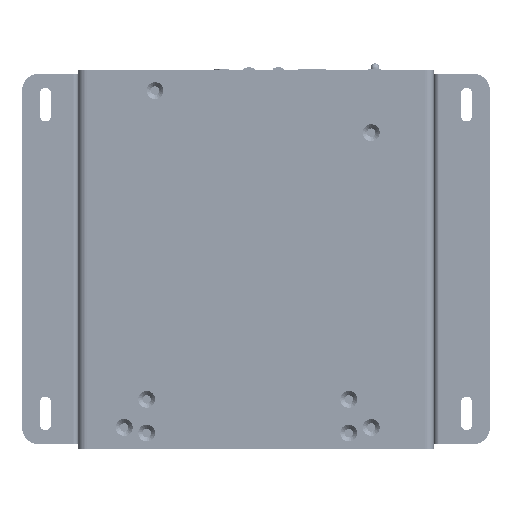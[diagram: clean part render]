
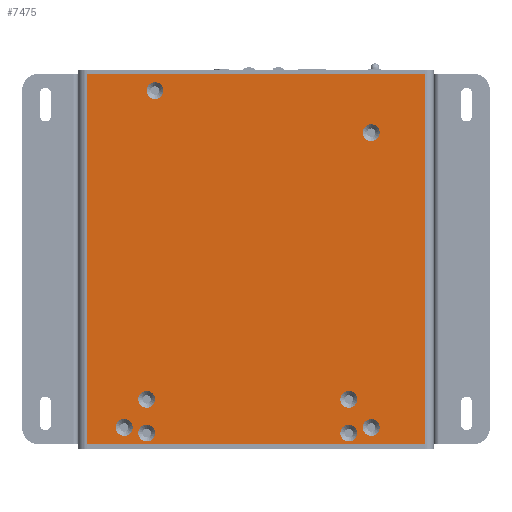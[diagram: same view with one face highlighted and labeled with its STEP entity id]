
A CAD part, front view. The second image highlights one B-rep face of the part: STEP entity #7475.
In plain terms, the highlighted planar face has unit normal (0, -1, 0).
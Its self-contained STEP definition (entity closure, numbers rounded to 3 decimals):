
#4503=DIRECTION('',(0.,0.,-1.));
#4504=VECTOR('',#4503,132.);
#4505=CARTESIAN_POINT('',(60.35,-38.954,132.));
#4506=LINE('',#4505,#4504);
#4511=DIRECTION('',(1.,0.,0.));
#4512=VECTOR('',#4511,120.7);
#4513=CARTESIAN_POINT('',(-60.35,-38.954,0.));
#4514=LINE('',#4513,#4512);
#4515=DIRECTION('',(-1.,0.,0.));
#4516=VECTOR('',#4515,120.7);
#4517=CARTESIAN_POINT('',(60.35,-38.954,132.));
#4518=LINE('',#4517,#4516);
#4519=CARTESIAN_POINT('',(41.05,-38.954,111.));
#4520=DIRECTION('',(0.,1.,0.));
#4521=DIRECTION('',(0.,0.,-1.));
#4522=AXIS2_PLACEMENT_3D('',#4519,#4520,#4521);
#4524=CARTESIAN_POINT('',(41.05,-38.954,111.));
#4525=DIRECTION('',(0.,1.,0.));
#4526=DIRECTION('',(0.,0.,1.));
#4527=AXIS2_PLACEMENT_3D('',#4524,#4525,#4526);
#4529=CARTESIAN_POINT('',(41.05,-38.954,111.));
#4530=DIRECTION('',(0.,1.,0.));
#4531=DIRECTION('',(-1.,0.,0.));
#4532=AXIS2_PLACEMENT_3D('',#4529,#4530,#4531);
#4534=CARTESIAN_POINT('',(-35.95,-38.954,126.));
#4535=DIRECTION('',(0.,1.,0.));
#4536=DIRECTION('',(0.,0.,-1.));
#4537=AXIS2_PLACEMENT_3D('',#4534,#4535,#4536);
#4539=CARTESIAN_POINT('',(-35.95,-38.954,126.));
#4540=DIRECTION('',(0.,1.,0.));
#4541=DIRECTION('',(0.,0.,1.));
#4542=AXIS2_PLACEMENT_3D('',#4539,#4540,#4541);
#4544=CARTESIAN_POINT('',(-35.95,-38.954,126.));
#4545=DIRECTION('',(0.,1.,0.));
#4546=DIRECTION('',(-1.,0.,0.));
#4547=AXIS2_PLACEMENT_3D('',#4544,#4545,#4546);
#4549=CARTESIAN_POINT('',(-46.95,-38.954,6.));
#4550=DIRECTION('',(0.,1.,0.));
#4551=DIRECTION('',(0.,0.,-1.));
#4552=AXIS2_PLACEMENT_3D('',#4549,#4550,#4551);
#4554=CARTESIAN_POINT('',(-46.95,-38.954,6.));
#4555=DIRECTION('',(0.,1.,0.));
#4556=DIRECTION('',(0.,0.,1.));
#4557=AXIS2_PLACEMENT_3D('',#4554,#4555,#4556);
#4559=CARTESIAN_POINT('',(-46.95,-38.954,6.));
#4560=DIRECTION('',(0.,1.,0.));
#4561=DIRECTION('',(-1.,0.,0.));
#4562=AXIS2_PLACEMENT_3D('',#4559,#4560,#4561);
#4564=CARTESIAN_POINT('',(41.05,-38.954,6.));
#4565=DIRECTION('',(0.,1.,0.));
#4566=DIRECTION('',(0.,0.,-1.));
#4567=AXIS2_PLACEMENT_3D('',#4564,#4565,#4566);
#4569=CARTESIAN_POINT('',(41.05,-38.954,6.));
#4570=DIRECTION('',(0.,1.,0.));
#4571=DIRECTION('',(0.,0.,1.));
#4572=AXIS2_PLACEMENT_3D('',#4569,#4570,#4571);
#4574=CARTESIAN_POINT('',(41.05,-38.954,6.));
#4575=DIRECTION('',(0.,1.,0.));
#4576=DIRECTION('',(-1.,0.,0.));
#4577=AXIS2_PLACEMENT_3D('',#4574,#4575,#4576);
#4579=CARTESIAN_POINT('',(33.05,-38.954,16.));
#4580=DIRECTION('',(0.,1.,0.));
#4581=DIRECTION('',(0.,0.,-1.));
#4582=AXIS2_PLACEMENT_3D('',#4579,#4580,#4581);
#4584=CARTESIAN_POINT('',(33.05,-38.954,16.));
#4585=DIRECTION('',(0.,1.,0.));
#4586=DIRECTION('',(0.,0.,1.));
#4587=AXIS2_PLACEMENT_3D('',#4584,#4585,#4586);
#4589=CARTESIAN_POINT('',(33.05,-38.954,4.));
#4590=DIRECTION('',(0.,1.,0.));
#4591=DIRECTION('',(0.,0.,-1.));
#4592=AXIS2_PLACEMENT_3D('',#4589,#4590,#4591);
#4594=CARTESIAN_POINT('',(33.05,-38.954,4.));
#4595=DIRECTION('',(0.,1.,0.));
#4596=DIRECTION('',(0.,0.,1.));
#4597=AXIS2_PLACEMENT_3D('',#4594,#4595,#4596);
#4599=CARTESIAN_POINT('',(-38.95,-38.954,16.));
#4600=DIRECTION('',(0.,1.,0.));
#4601=DIRECTION('',(0.,0.,-1.));
#4602=AXIS2_PLACEMENT_3D('',#4599,#4600,#4601);
#4604=CARTESIAN_POINT('',(-38.95,-38.954,16.));
#4605=DIRECTION('',(0.,1.,0.));
#4606=DIRECTION('',(0.,0.,1.));
#4607=AXIS2_PLACEMENT_3D('',#4604,#4605,#4606);
#4609=CARTESIAN_POINT('',(-38.95,-38.954,4.));
#4610=DIRECTION('',(0.,1.,0.));
#4611=DIRECTION('',(0.,0.,-1.));
#4612=AXIS2_PLACEMENT_3D('',#4609,#4610,#4611);
#4614=CARTESIAN_POINT('',(-38.95,-38.954,4.));
#4615=DIRECTION('',(0.,1.,0.));
#4616=DIRECTION('',(0.,0.,1.));
#4617=AXIS2_PLACEMENT_3D('',#4614,#4615,#4616);
#4623=DIRECTION('',(0.,0.,1.));
#4624=VECTOR('',#4623,132.);
#4625=CARTESIAN_POINT('',(-60.35,-38.954,0.));
#4626=LINE('',#4625,#4624);
#5151=CARTESIAN_POINT('',(-38.95,-38.954,7.));
#5153=VERTEX_POINT('',#5151);
#5227=CARTESIAN_POINT('',(-46.95,-38.954,9.));
#5228=VERTEX_POINT('',#5227);
#5269=CARTESIAN_POINT('',(-60.35,-38.954,0.));
#5270=CARTESIAN_POINT('',(-60.35,-38.954,132.));
#5271=VERTEX_POINT('',#5269);
#5272=VERTEX_POINT('',#5270);
#5285=CARTESIAN_POINT('',(-38.95,-38.954,1.));
#5286=VERTEX_POINT('',#5285);
#5325=CARTESIAN_POINT('',(-35.95,-38.954,129.));
#5327=VERTEX_POINT('',#5325);
#5341=CARTESIAN_POINT('',(33.05,-38.954,7.));
#5343=VERTEX_POINT('',#5341);
#5353=CARTESIAN_POINT('',(41.05,-38.954,9.));
#5354=CARTESIAN_POINT('',(41.05,-38.954,3.));
#5355=VERTEX_POINT('',#5353);
#5356=VERTEX_POINT('',#5354);
#5463=CARTESIAN_POINT('',(-35.95,-38.954,123.));
#5464=VERTEX_POINT('',#5463);
#5487=CARTESIAN_POINT('',(33.05,-38.954,19.));
#5488=CARTESIAN_POINT('',(33.05,-38.954,13.));
#5489=VERTEX_POINT('',#5487);
#5490=VERTEX_POINT('',#5488);
#5517=CARTESIAN_POINT('',(33.05,-38.954,1.));
#5518=VERTEX_POINT('',#5517);
#5573=CARTESIAN_POINT('',(-38.95,-38.954,19.));
#5574=CARTESIAN_POINT('',(-38.95,-38.954,13.));
#5575=VERTEX_POINT('',#5573);
#5576=VERTEX_POINT('',#5574);
#5585=CARTESIAN_POINT('',(41.05,-38.954,114.));
#5586=CARTESIAN_POINT('',(41.05,-38.954,108.));
#5587=VERTEX_POINT('',#5585);
#5588=VERTEX_POINT('',#5586);
#5607=CARTESIAN_POINT('',(60.35,-38.954,0.));
#5608=VERTEX_POINT('',#5607);
#5621=CARTESIAN_POINT('',(60.35,-38.954,132.));
#5622=VERTEX_POINT('',#5621);
#5655=CARTESIAN_POINT('',(-38.95,-38.954,126.));
#5656=VERTEX_POINT('',#5655);
#5679=CARTESIAN_POINT('',(-46.95,-38.954,3.));
#5680=CARTESIAN_POINT('',(-49.95,-38.954,6.));
#5681=VERTEX_POINT('',#5679);
#5682=VERTEX_POINT('',#5680);
#5701=CARTESIAN_POINT('',(38.05,-38.954,6.));
#5702=VERTEX_POINT('',#5701);
#5705=CARTESIAN_POINT('',(38.05,-38.954,111.));
#5706=VERTEX_POINT('',#5705);
#7407=CARTESIAN_POINT('',(60.35,-38.954,132.));
#7408=DIRECTION('',(0.,-1.,0.));
#7409=DIRECTION('',(-1.,0.,0.));
#7410=AXIS2_PLACEMENT_3D('',#7407,#7408,#7409);
#7411=PLANE('',#7410);
#7412=ORIENTED_EDGE('',*,*,#5760,.F.);
#7414=ORIENTED_EDGE('',*,*,#7413,.T.);
#7415=ORIENTED_EDGE('',*,*,#6225,.F.);
#7416=ORIENTED_EDGE('',*,*,#7400,.T.);
#7417=EDGE_LOOP('',(#7412,#7414,#7415,#7416));
#7418=FACE_OUTER_BOUND('',#7417,.F.);
#7420=ORIENTED_EDGE('',*,*,#7419,.F.);
#7422=ORIENTED_EDGE('',*,*,#7421,.F.);
#7424=ORIENTED_EDGE('',*,*,#7423,.F.);
#7425=EDGE_LOOP('',(#7420,#7422,#7424));
#7426=FACE_BOUND('',#7425,.F.);
#7428=ORIENTED_EDGE('',*,*,#7427,.F.);
#7430=ORIENTED_EDGE('',*,*,#7429,.F.);
#7432=ORIENTED_EDGE('',*,*,#7431,.F.);
#7433=EDGE_LOOP('',(#7428,#7430,#7432));
#7434=FACE_BOUND('',#7433,.F.);
#7436=ORIENTED_EDGE('',*,*,#7435,.F.);
#7438=ORIENTED_EDGE('',*,*,#7437,.F.);
#7440=ORIENTED_EDGE('',*,*,#7439,.F.);
#7441=EDGE_LOOP('',(#7436,#7438,#7440));
#7442=FACE_BOUND('',#7441,.F.);
#7444=ORIENTED_EDGE('',*,*,#7443,.F.);
#7446=ORIENTED_EDGE('',*,*,#7445,.F.);
#7448=ORIENTED_EDGE('',*,*,#7447,.F.);
#7449=EDGE_LOOP('',(#7444,#7446,#7448));
#7450=FACE_BOUND('',#7449,.F.);
#7452=ORIENTED_EDGE('',*,*,#7451,.F.);
#7454=ORIENTED_EDGE('',*,*,#7453,.F.);
#7455=EDGE_LOOP('',(#7452,#7454));
#7456=FACE_BOUND('',#7455,.F.);
#7458=ORIENTED_EDGE('',*,*,#7457,.F.);
#7460=ORIENTED_EDGE('',*,*,#7459,.F.);
#7461=EDGE_LOOP('',(#7458,#7460));
#7462=FACE_BOUND('',#7461,.F.);
#7464=ORIENTED_EDGE('',*,*,#7463,.F.);
#7466=ORIENTED_EDGE('',*,*,#7465,.F.);
#7467=EDGE_LOOP('',(#7464,#7466));
#7468=FACE_BOUND('',#7467,.F.);
#7470=ORIENTED_EDGE('',*,*,#7469,.F.);
#7472=ORIENTED_EDGE('',*,*,#7471,.F.);
#7473=EDGE_LOOP('',(#7470,#7472));
#7474=FACE_BOUND('',#7473,.F.);
#4523=CIRCLE('',#4522,3.);
#4528=CIRCLE('',#4527,3.);
#4533=CIRCLE('',#4532,3.);
#4538=CIRCLE('',#4537,3.);
#4543=CIRCLE('',#4542,3.);
#4548=CIRCLE('',#4547,3.);
#4553=CIRCLE('',#4552,3.);
#4558=CIRCLE('',#4557,3.);
#4563=CIRCLE('',#4562,3.);
#4568=CIRCLE('',#4567,3.);
#4573=CIRCLE('',#4572,3.);
#4578=CIRCLE('',#4577,3.);
#4583=CIRCLE('',#4582,3.);
#4588=CIRCLE('',#4587,3.);
#4593=CIRCLE('',#4592,3.);
#4598=CIRCLE('',#4597,3.);
#4603=CIRCLE('',#4602,3.);
#4608=CIRCLE('',#4607,3.);
#4613=CIRCLE('',#4612,3.);
#4618=CIRCLE('',#4617,3.);
#5760=EDGE_CURVE('',#5271,#5608,#4514,.T.);
#6225=EDGE_CURVE('',#5622,#5272,#4518,.T.);
#7400=EDGE_CURVE('',#5622,#5608,#4506,.T.);
#7413=EDGE_CURVE('',#5271,#5272,#4626,.T.);
#7419=EDGE_CURVE('',#5588,#5706,#4523,.T.);
#7421=EDGE_CURVE('',#5587,#5588,#4528,.T.);
#7423=EDGE_CURVE('',#5706,#5587,#4533,.T.);
#7427=EDGE_CURVE('',#5464,#5656,#4538,.T.);
#7429=EDGE_CURVE('',#5327,#5464,#4543,.T.);
#7431=EDGE_CURVE('',#5656,#5327,#4548,.T.);
#7435=EDGE_CURVE('',#5681,#5682,#4553,.T.);
#7437=EDGE_CURVE('',#5228,#5681,#4558,.T.);
#7439=EDGE_CURVE('',#5682,#5228,#4563,.T.);
#7443=EDGE_CURVE('',#5356,#5702,#4568,.T.);
#7445=EDGE_CURVE('',#5355,#5356,#4573,.T.);
#7447=EDGE_CURVE('',#5702,#5355,#4578,.T.);
#7451=EDGE_CURVE('',#5490,#5489,#4583,.T.);
#7453=EDGE_CURVE('',#5489,#5490,#4588,.T.);
#7457=EDGE_CURVE('',#5518,#5343,#4593,.T.);
#7459=EDGE_CURVE('',#5343,#5518,#4598,.T.);
#7463=EDGE_CURVE('',#5576,#5575,#4603,.T.);
#7465=EDGE_CURVE('',#5575,#5576,#4608,.T.);
#7469=EDGE_CURVE('',#5286,#5153,#4613,.T.);
#7471=EDGE_CURVE('',#5153,#5286,#4618,.T.);
#7475=ADVANCED_FACE('',(#7418,#7426,#7434,#7442,#7450,#7456,#7462,#7468,#7474),
#7411,.T.);
